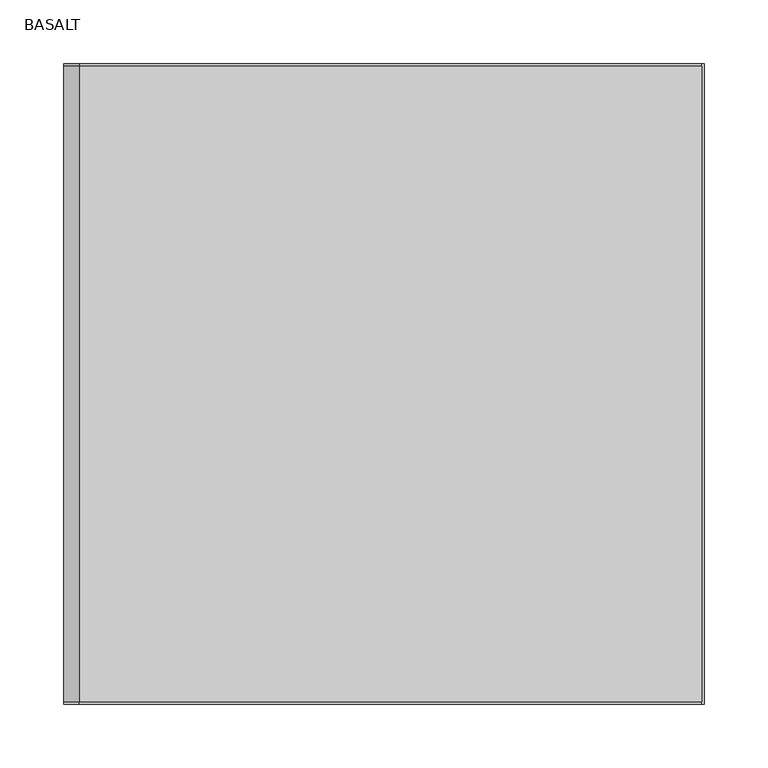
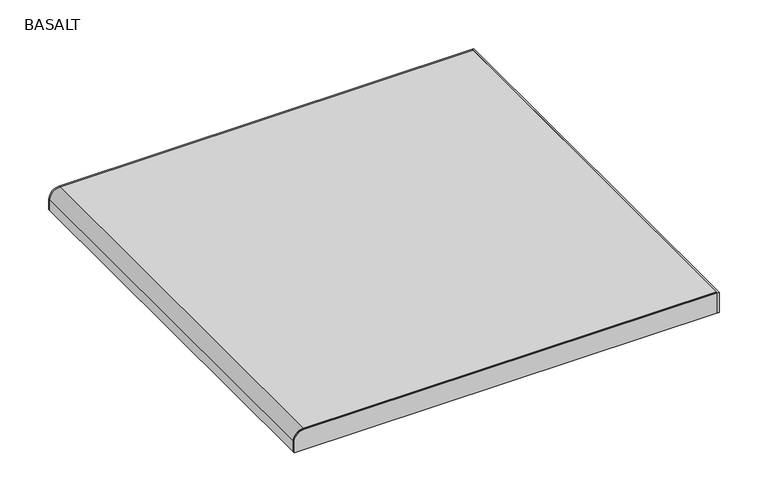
"""IFC4 building model written with IfcOpenShell, lengths in millimetres: proxy geometry, BORDA BLOCKLINE STEP BASALT 50X50 EXT BOLD : BASALT."""

from ifc_helpers import new_model, si_unit, point, frame, frame_2d, origin, place, context, project, spatial, polyline, circle_curve, trimmed, segment, composite_curve, outline, extrude, source, transform, mapped, element, save


def basalt_b67e728c(model_context):
    return source(origin(), model_context, "Body", "SweptSolid", [
        extrude(outline(composite_curve([segment(polyline([(-25.0, 258.0000153), (0.0, 258.0000153), (0.0, -230.0)]), True, "CONTINUOUS"), segment(trimmed(circle_curve(frame_2d((-12.0, -230.0)), 12.0), [point((0.0, -230.0))], [point((-12.0, -242.0))], False, "CARTESIAN"), True, "CONTINUOUS"), segment(polyline([(-12.0, -242.0), (-24.9999835, -242.0), (-25.0, 258.0000153)]), True, "CONTINUOUS")], self_intersect=False)), frame((0.0, -249.0, 0.0), z_axis=(0.0, 1.0, 0.0), x_axis=(0.0, 0.0, 1.0)), (0.0, 0.0, 1.0), 498.0),
        extrude(outline(polyline([(260.0000153, 251.0), (260.0000153, -251.0), (258.0000153, -251.0), (258.0000153, 251.0), (260.0000153, 251.0)])), frame((0.0, 0.0, -25.0), z_axis=(0.0, 0.0, 1.0), x_axis=(1.0, 0.0, 0.0)), (0.0, 0.0, 1.0), 25.0),
        extrude(outline(composite_curve([segment(polyline([(-25.0, 258.0000153), (0.0, 258.0000153), (0.0, -230.0)]), True, "CONTINUOUS"), segment(trimmed(circle_curve(frame_2d((-12.0, -230.0)), 12.0), [point((0.0, -230.0))], [point((-12.0, -242.0))], False, "CARTESIAN"), True, "CONTINUOUS"), segment(polyline([(-12.0, -242.0), (-24.9999835, -242.0), (-25.0, 258.0000153)]), True, "CONTINUOUS")], self_intersect=False)), frame((0.0, -251.0, 0.0), z_axis=(0.0, 1.0, 0.0), x_axis=(0.0, 0.0, 1.0)), (0.0, 0.0, 1.0), 2.0),
        extrude(outline(composite_curve([segment(polyline([(-24.9999835, -242.0), (-25.0, 258.0000153), (0.0, 258.0000153), (0.0, -230.0)]), True, "CONTINUOUS"), segment(trimmed(circle_curve(frame_2d((-12.0, -230.0)), 12.0), [point((0.0, -230.0))], [point((-12.0, -242.0))], False, "CARTESIAN"), True, "CONTINUOUS"), segment(polyline([(-12.0, -242.0), (-24.9999835, -242.0)]), True, "CONTINUOUS")], self_intersect=False)), frame((0.0, 249.0, 0.0), z_axis=(0.0, 1.0, 0.0), x_axis=(0.0, 0.0, 1.0)), (0.0, 0.0, 1.0), 2.0),
    ])


if __name__ == "__main__":
    model = new_model("IFC4")
    model_context = context("Model", 3, world=origin())
    ifc_project = project(units=[si_unit("LENGTHUNIT", "METRE", prefix="MILLI")], contexts=[model_context])
    site = spatial("IfcSite", under=ifc_project)
    building = spatial("IfcBuilding", under=site)
    placement = place(None, origin())
    basalt_shape = basalt_b67e728c(model_context)
    element("IfcBuildingElementProxy", 1, Name="BORDA BLOCKLINE STEP BASALT 50X50 EXT BOLD : BASALT", ObjectType="BORDA BLOCKLINE STEP BASALT 50X50 EXT BOLD : BASALT", at=placement, inside=building, context=model_context, shape_type="MappedRepresentation", body=[
        mapped(basalt_shape, transform((0.0, 0.0, 0.0), x_axis=(1.0, 0.0, 0.0), y_axis=(0.0, 1.0, 0.0), z_axis=(0.0, 0.0, 1.0))),
    ])
    save(model, "model.ifc")
